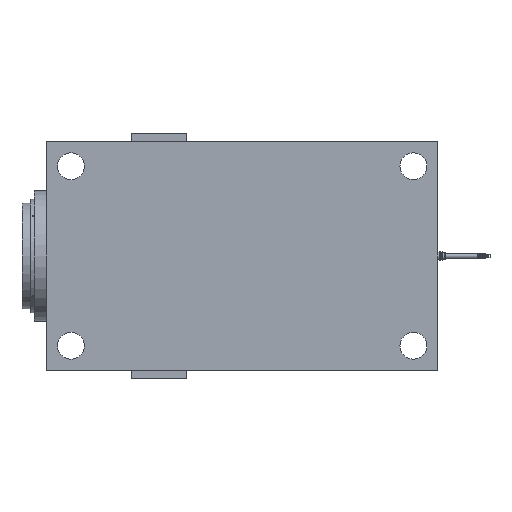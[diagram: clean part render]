
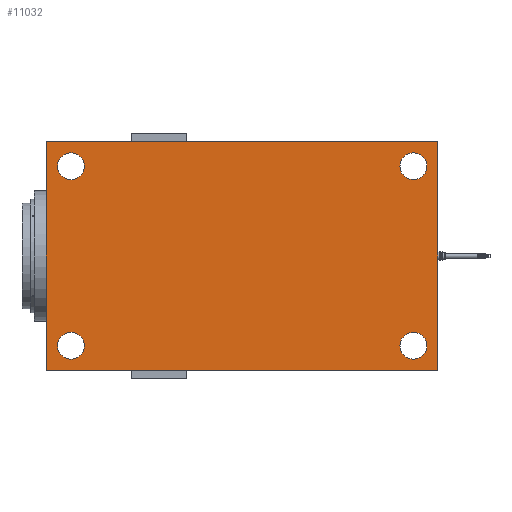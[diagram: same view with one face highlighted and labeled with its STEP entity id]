
A CAD part, front view. The second image highlights one B-rep face of the part: STEP entity #11032.
In plain terms, the highlighted planar face has unit normal (0, -1, 0).
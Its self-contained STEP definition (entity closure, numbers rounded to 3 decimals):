
#246 = EDGE_CURVE ( 'NONE', #6239, #2805, #8141, .T. ) ;
#294 = DIRECTION ( 'NONE',  ( 0., 0., 1. ) ) ;
#542 = DIRECTION ( 'NONE',  ( 0., 0., -1. ) ) ;
#728 = CARTESIAN_POINT ( 'NONE',  ( 0., 0., 0. ) ) ;
#873 = DIRECTION ( 'NONE',  ( 0., 0., 1. ) ) ;
#901 = CARTESIAN_POINT ( 'NONE',  ( -210., 0., 93.5 ) ) ;
#936 = EDGE_LOOP ( 'NONE', ( #7389, #12739 ) ) ;
#953 = CARTESIAN_POINT ( 'NONE',  ( -240., 0., 140. ) ) ;
#1304 = EDGE_CURVE ( 'NONE', #10332, #8727, #17772, .T. ) ;
#1364 = AXIS2_PLACEMENT_3D ( 'NONE', #6254, #6350, #12002 ) ;
#1670 = CIRCLE ( 'NONE', #4022, 16.5 ) ;
#1675 = ORIENTED_EDGE ( 'NONE', *, *, #12152, .T. ) ;
#1791 = DIRECTION ( 'NONE',  ( 0., 1., 0. ) ) ;
#1857 = ORIENTED_EDGE ( 'NONE', *, *, #3027, .T. ) ;
#1913 = VERTEX_POINT ( 'NONE', #12136 ) ;
#1963 = CARTESIAN_POINT ( 'NONE',  ( 210., 0., -93.5 ) ) ;
#2633 = DIRECTION ( 'NONE',  ( 1., 0., 0. ) ) ;
#2731 = LINE ( 'NONE', #4112, #9392 ) ;
#2805 = VERTEX_POINT ( 'NONE', #15352 ) ;
#3027 = EDGE_CURVE ( 'NONE', #15855, #5446, #10695, .T. ) ;
#3370 = EDGE_LOOP ( 'NONE', ( #10707, #1857 ) ) ;
#3508 = DIRECTION ( 'NONE',  ( 0., 1., 0. ) ) ;
#3569 = FACE_OUTER_BOUND ( 'NONE', #12848, .T. ) ;
#3673 = AXIS2_PLACEMENT_3D ( 'NONE', #9154, #10730, #3745 ) ;
#3745 = DIRECTION ( 'NONE',  ( 0., 0., 1. ) ) ;
#3804 = CARTESIAN_POINT ( 'NONE',  ( -210., 0., -110. ) ) ;
#4022 = AXIS2_PLACEMENT_3D ( 'NONE', #12820, #1791, #17102 ) ;
#4112 = CARTESIAN_POINT ( 'NONE',  ( -240., 0., 140. ) ) ;
#4214 = DIRECTION ( 'NONE',  ( 0., 1., 0. ) ) ;
#4782 = CARTESIAN_POINT ( 'NONE',  ( -210., 0., -110. ) ) ;
#4832 = ORIENTED_EDGE ( 'NONE', *, *, #12112, .F. ) ;
#4846 = EDGE_CURVE ( 'NONE', #10590, #5867, #13352, .T. ) ;
#4870 = DIRECTION ( 'NONE',  ( 0., 1., 0. ) ) ;
#5114 = AXIS2_PLACEMENT_3D ( 'NONE', #14433, #4870, #12074 ) ;
#5170 = DIRECTION ( 'NONE',  ( 0., 0., 1. ) ) ;
#5399 = ORIENTED_EDGE ( 'NONE', *, *, #14152, .F. ) ;
#5446 = VERTEX_POINT ( 'NONE', #17108 ) ;
#5583 = LINE ( 'NONE', #14055, #13690 ) ;
#5867 = VERTEX_POINT ( 'NONE', #11525 ) ;
#6008 = CARTESIAN_POINT ( 'NONE',  ( -210., 0., 126.5 ) ) ;
#6059 = ORIENTED_EDGE ( 'NONE', *, *, #15115, .T. ) ;
#6239 = VERTEX_POINT ( 'NONE', #953 ) ;
#6254 = CARTESIAN_POINT ( 'NONE',  ( 210., 0., 110. ) ) ;
#6350 = DIRECTION ( 'NONE',  ( 0., 1., 0. ) ) ;
#6450 = CIRCLE ( 'NONE', #12639, 16.5 ) ;
#6486 = ORIENTED_EDGE ( 'NONE', *, *, #14664, .T. ) ;
#6608 = CARTESIAN_POINT ( 'NONE',  ( 240., 0., -140. ) ) ;
#6877 = DIRECTION ( 'NONE',  ( 0., 1., 0. ) ) ;
#7182 = CIRCLE ( 'NONE', #1364, 16.5 ) ;
#7238 = ORIENTED_EDGE ( 'NONE', *, *, #246, .F. ) ;
#7389 = ORIENTED_EDGE ( 'NONE', *, *, #12938, .T. ) ;
#8141 = LINE ( 'NONE', #15217, #12619 ) ;
#8727 = VERTEX_POINT ( 'NONE', #11844 ) ;
#8949 = EDGE_LOOP ( 'NONE', ( #1675, #6486 ) ) ;
#9149 = EDGE_LOOP ( 'NONE', ( #13413, #6059 ) ) ;
#9154 = CARTESIAN_POINT ( 'NONE',  ( 210., 0., -110. ) ) ;
#9255 = FACE_BOUND ( 'NONE', #9149, .T. ) ;
#9392 = VECTOR ( 'NONE', #13864, 1000. ) ;
#9404 = AXIS2_PLACEMENT_3D ( 'NONE', #12376, #13755, #17962 ) ;
#9495 = CARTESIAN_POINT ( 'NONE',  ( -240., 0., -140. ) ) ;
#9967 = CARTESIAN_POINT ( 'NONE',  ( 210., 0., 126.5 ) ) ;
#10233 = VERTEX_POINT ( 'NONE', #1963 ) ;
#10332 = VERTEX_POINT ( 'NONE', #6608 ) ;
#10590 = VERTEX_POINT ( 'NONE', #15623 ) ;
#10695 = CIRCLE ( 'NONE', #5114, 16.5 ) ;
#10707 = ORIENTED_EDGE ( 'NONE', *, *, #11949, .T. ) ;
#10730 = DIRECTION ( 'NONE',  ( 0., 1., 0. ) ) ;
#11032 = ADVANCED_FACE ( 'NONE', ( #17337, #12052, #3569, #9255, #17623 ), #14500, .T. ) ;
#11064 = AXIS2_PLACEMENT_3D ( 'NONE', #728, #11950, #542 ) ;
#11220 = DIRECTION ( 'NONE',  ( 0., 0., -1. ) ) ;
#11525 = CARTESIAN_POINT ( 'NONE',  ( -210., 0., -93.5 ) ) ;
#11844 = CARTESIAN_POINT ( 'NONE',  ( -240., 0., -140. ) ) ;
#11949 = EDGE_CURVE ( 'NONE', #5446, #15855, #7182, .T. ) ;
#11950 = DIRECTION ( 'NONE',  ( 0., -1., 0. ) ) ;
#12002 = DIRECTION ( 'NONE',  ( 0., 0., 1. ) ) ;
#12052 = FACE_BOUND ( 'NONE', #8949, .T. ) ;
#12074 = DIRECTION ( 'NONE',  ( 0., 0., 1. ) ) ;
#12112 = EDGE_CURVE ( 'NONE', #2805, #10332, #5583, .T. ) ;
#12136 = CARTESIAN_POINT ( 'NONE',  ( 210., 0., -126.5 ) ) ;
#12152 = EDGE_CURVE ( 'NONE', #14512, #15807, #12241, .T. ) ;
#12241 = CIRCLE ( 'NONE', #14866, 16.5 ) ;
#12376 = CARTESIAN_POINT ( 'NONE',  ( -210., 0., 110. ) ) ;
#12619 = VECTOR ( 'NONE', #2633, 1000. ) ;
#12639 = AXIS2_PLACEMENT_3D ( 'NONE', #3804, #6877, #5170 ) ;
#12739 = ORIENTED_EDGE ( 'NONE', *, *, #17566, .T. ) ;
#12820 = CARTESIAN_POINT ( 'NONE',  ( 210., 0., -110. ) ) ;
#12848 = EDGE_LOOP ( 'NONE', ( #4832, #7238, #5399, #15602 ) ) ;
#12930 = CIRCLE ( 'NONE', #9404, 16.5 ) ;
#12938 = EDGE_CURVE ( 'NONE', #1913, #10233, #1670, .T. ) ;
#13352 = CIRCLE ( 'NONE', #18013, 16.5 ) ;
#13413 = ORIENTED_EDGE ( 'NONE', *, *, #4846, .T. ) ;
#13690 = VECTOR ( 'NONE', #11220, 1000. ) ;
#13755 = DIRECTION ( 'NONE',  ( 0., 1., 0. ) ) ;
#13864 = DIRECTION ( 'NONE',  ( 0., 0., 1. ) ) ;
#14055 = CARTESIAN_POINT ( 'NONE',  ( 240., 0., 140. ) ) ;
#14152 = EDGE_CURVE ( 'NONE', #8727, #6239, #2731, .T. ) ;
#14433 = CARTESIAN_POINT ( 'NONE',  ( 210., 0., 110. ) ) ;
#14500 = PLANE ( 'NONE',  #11064 ) ;
#14512 = VERTEX_POINT ( 'NONE', #901 ) ;
#14664 = EDGE_CURVE ( 'NONE', #15807, #14512, #12930, .T. ) ;
#14866 = AXIS2_PLACEMENT_3D ( 'NONE', #17662, #4214, #873 ) ;
#15115 = EDGE_CURVE ( 'NONE', #5867, #10590, #6450, .T. ) ;
#15122 = CIRCLE ( 'NONE', #3673, 16.5 ) ;
#15217 = CARTESIAN_POINT ( 'NONE',  ( -240., 0., 140. ) ) ;
#15289 = DIRECTION ( 'NONE',  ( -1., 0., 0. ) ) ;
#15352 = CARTESIAN_POINT ( 'NONE',  ( 240., 0., 140. ) ) ;
#15602 = ORIENTED_EDGE ( 'NONE', *, *, #1304, .F. ) ;
#15623 = CARTESIAN_POINT ( 'NONE',  ( -210., 0., -126.5 ) ) ;
#15807 = VERTEX_POINT ( 'NONE', #6008 ) ;
#15855 = VERTEX_POINT ( 'NONE', #9967 ) ;
#16904 = VECTOR ( 'NONE', #15289, 1000. ) ;
#17102 = DIRECTION ( 'NONE',  ( 0., 0., 1. ) ) ;
#17108 = CARTESIAN_POINT ( 'NONE',  ( 210., 0., 93.5 ) ) ;
#17337 = FACE_BOUND ( 'NONE', #936, .T. ) ;
#17566 = EDGE_CURVE ( 'NONE', #10233, #1913, #15122, .T. ) ;
#17623 = FACE_BOUND ( 'NONE', #3370, .T. ) ;
#17662 = CARTESIAN_POINT ( 'NONE',  ( -210., 0., 110. ) ) ;
#17772 = LINE ( 'NONE', #9495, #16904 ) ;
#17962 = DIRECTION ( 'NONE',  ( 0., 0., 1. ) ) ;
#18013 = AXIS2_PLACEMENT_3D ( 'NONE', #4782, #3508, #294 ) ;
